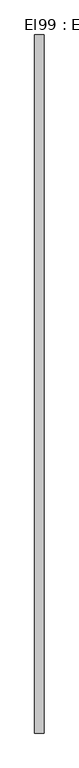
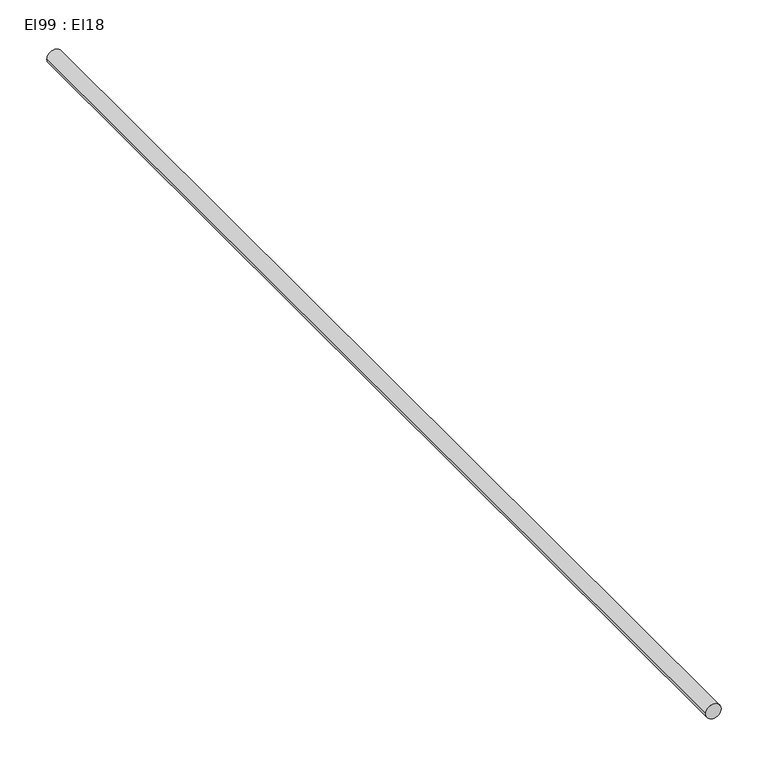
"""IFC4 building model written with IfcOpenShell, lengths in millimetres: cable carrier segment geometry, El99 : El18."""

from ifc_helpers import new_model, si_unit, point, frame, frame_2d, origin, place, context, project, spatial, circle_curve, trimmed, segment, composite_curve, outline, extrude, source, transform, mapped, element, save


def el99_el18_9592cac1(model_context):
    return source(origin(), model_context, "Body", "SweptSolid", [
        extrude(outline(composite_curve([segment(trimmed(circle_curve(frame_2d((1800.0, 5364.4746511)), 9.5), [point((1800.0, 5354.9746511))], [point((1800.0, 5373.9746511))], False, "CARTESIAN"), True, "CONTINUOUS"), segment(trimmed(circle_curve(frame_2d((1800.0, 5364.4746511)), 9.5), [point((1800.0, 5373.9746511))], [point((1800.0, 5354.9746511))], False, "CARTESIAN"), True, "CONTINUOUS")], self_intersect=False)), frame((0.0, 1229.1141745, 0.0), z_axis=(0.0, 1.0, 0.0), x_axis=(0.0, 0.0, 1.0)), (0.0, 0.0, 1.0), 1404.8),
    ])


if __name__ == "__main__":
    model = new_model("IFC4")
    model_context = context("Model", 3, world=origin())
    ifc_project = project(units=[si_unit("LENGTHUNIT", "METRE", prefix="MILLI")], contexts=[model_context])
    site = spatial("IfcSite", under=ifc_project)
    building = spatial("IfcBuilding", under=site)
    placement = place(None, origin())
    el99_el18_shape = el99_el18_9592cac1(model_context)
    element("IfcCableCarrierSegment", 1, ObjectType="El99 : El18", at=placement, inside=building, context=model_context, shape_type="MappedRepresentation", body=[
        mapped(el99_el18_shape, transform((0.0, 0.0, 0.0), x_axis=(1.0, 0.0, 0.0), y_axis=(0.0, 1.0, 0.0), z_axis=(0.0, 0.0, 1.0))),
    ])
    save(model, "model.ifc")
